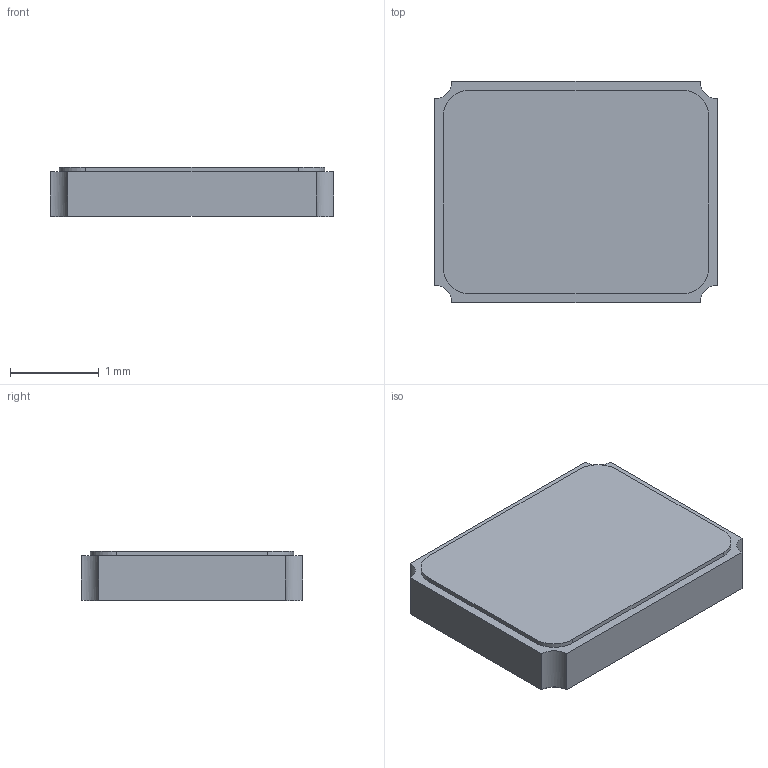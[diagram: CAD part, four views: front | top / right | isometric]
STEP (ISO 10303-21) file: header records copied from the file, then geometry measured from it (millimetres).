
FILE_DESCRIPTION(('FreeCAD Model'),'2;1');
FILE_NAME('Open CASCADE Shape Model','2022-08-08T15:14:31',(''),(''), 'Open CASCADE STEP processor 7.6','FreeCAD','Unknown');
FILE_SCHEMA(('AUTOMOTIVE_DESIGN { 1 0 10303 214 1 1 1 1 }'));
Length unit declared in the file: millimetre
Products named in the file (1): Body
Bounding box: 3.2 x 2.5 x 0.56 mm (x, y, z)
Volume: 4.3 mm3; surface area: 21.8 mm2
Topology: 1 solids, 1 shells, 52 faces, 139 edges, 90 vertices
Faces by surface type: plane 40, cylinder 12
Entity records: 3448 total; most frequent: CARTESIAN_POINT 584, DIRECTION 547, LINE 365, VECTOR 365, ORIENTED_EDGE 278, PCURVE 278, DEFINITIONAL_REPRESENTATION 278, EDGE_CURVE 139
